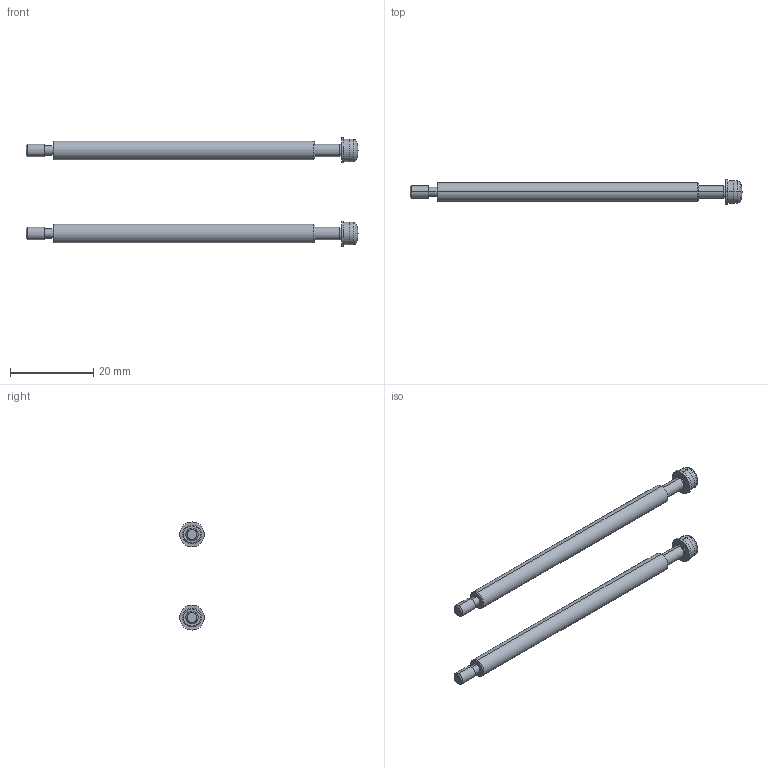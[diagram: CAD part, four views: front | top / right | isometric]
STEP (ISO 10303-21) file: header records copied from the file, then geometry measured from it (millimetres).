
FILE_DESCRIPTION( (''), '2;1');
FILE_NAME ('YS8Z-3.stp','2022-12-01T14:58:32',(''),(''),'spGate 12.6.6','','');
FILE_SCHEMA (('AUTOMOTIVE_DESIGN'));
Length unit declared in the file: millimetre
Products named in the file (3): Assembly; YS8Z-3-prt0; YS8Z-3-prt1
Assembly tree (4 placements, depth 2):
  Assembly
    YS8Z-3-prt0  x2
    YS8Z-3-prt1  x2
Bounding box: 79.9 x 6 x 26 mm (x, y, z)
Volume: 2266.5 mm3; surface area: 2643.3 mm2
Topology: 4 solids, 4 shells, 94 faces, 188 edges, 108 vertices
Faces by surface type: cylinder 40, bspline 32, plane 18, sphere 4
Entity records: 2150 total; most frequent: CARTESIAN_POINT 415, DIRECTION 182, ORIENTED_EDGE 180, COLOUR_RGB 139, PRESENTATION_STYLE_ASSIGNMENT 139, STYLED_ITEM 139, AXIS2_PLACEMENT_3D 91, EDGE_CURVE 90
